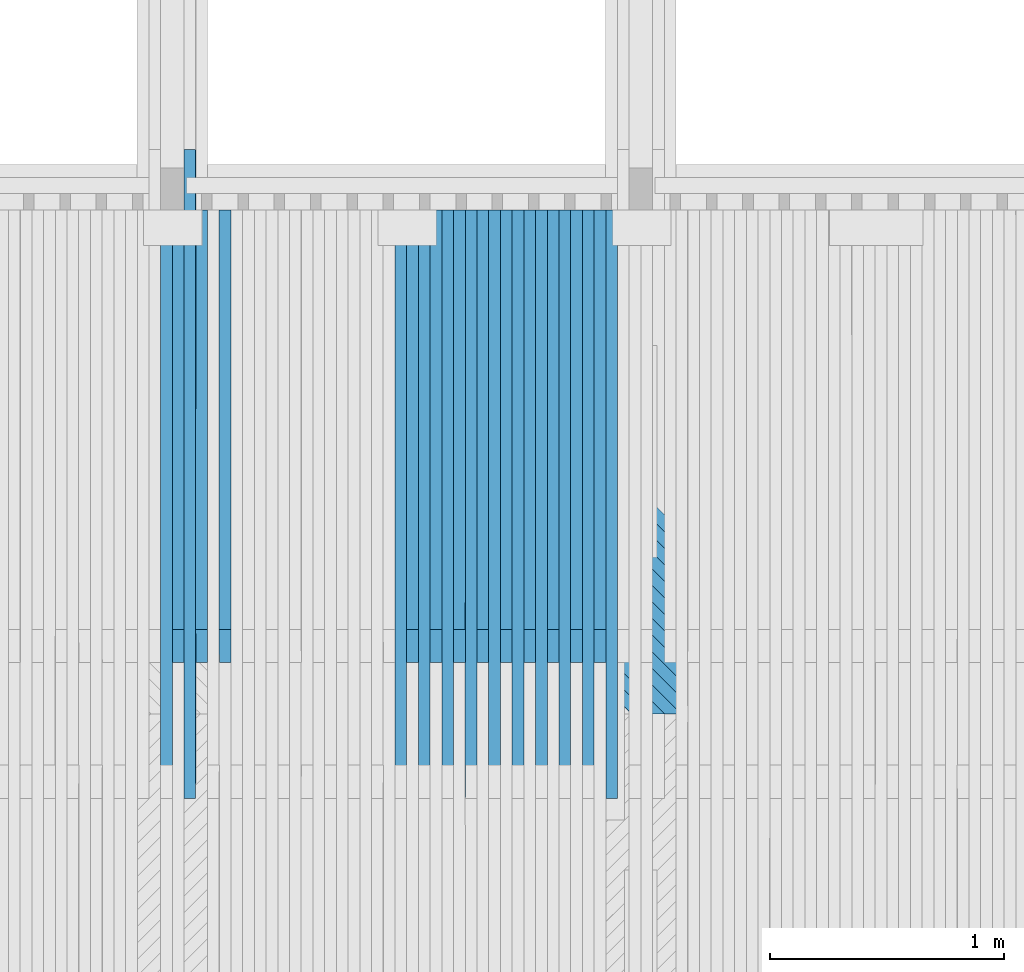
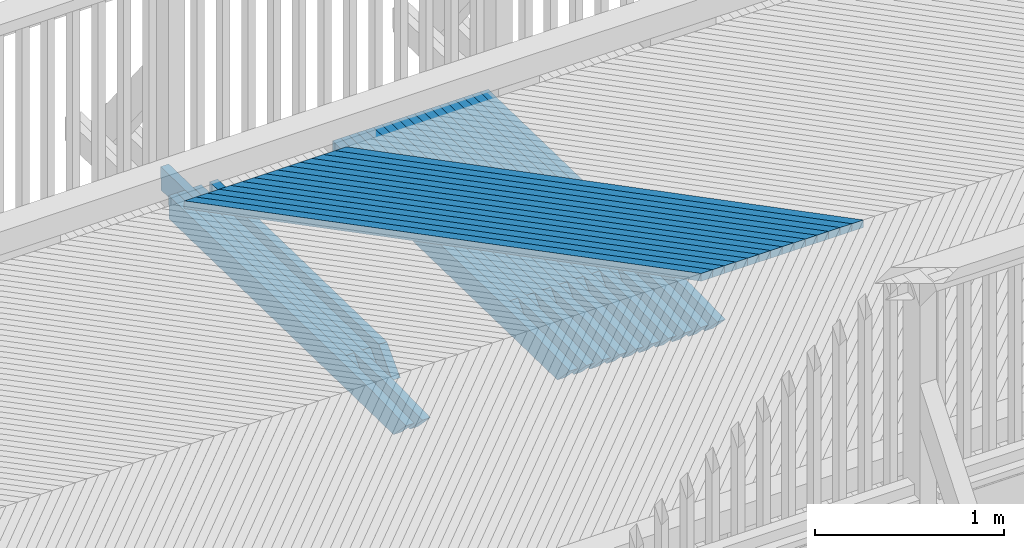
# One storey, part 27 of 53: 38 beams.
"""IFC2X3 building model written with IfcOpenShell, lengths in millimetres."""

import ifcopenshell
import ifcopenshell.guid

model = None  # the IFC model being written
_history = None  # IfcOwnerHistory: only IFC2X3 demands one
_inside = {}  # id of a spatial element -> (the spatial element, [elements in it])
_under = {}  # id of a project, library or spatial element -> (it, [spatial elements below it])
_declared = {}  # id of a project -> (the project, [libraries it declares])
_typed = {}  # id of a type object -> (the type object, [elements of that type])
_made_of = {}  # id of a material, layer set ... -> (it, [elements and type objects made of it])


def new_model(schema):
    """Start an empty IFC model of exactly this schema.

    Asked for "IFC4X3", IfcOpenShell would pick the latest addendum, in which some entities
    have other attributes; the version numbers below select the first issue.
    IFC2X3 requires an IfcOwnerHistory on every rooted entity: one is made here for all.
    """
    global model, _history
    if schema == "IFC4X3":
        model = ifcopenshell.file(schema_version=(4, 3, 0, 0))
    else:
        model = ifcopenshell.file(schema=schema)
    _inside.clear()
    _under.clear()
    _declared.clear()
    _typed.clear()
    _made_of.clear()
    _history = None
    if model.schema == "IFC2X3":
        org = make("IfcOrganization", Name="unknown")
        user = make(
            "IfcPersonAndOrganization",
            ThePerson=make("IfcPerson", FamilyName="unknown"),
            TheOrganization=org,
        )
        app = make(
            "IfcApplication",
            ApplicationDeveloper=org,
            Version="unknown",
            ApplicationFullName="unknown",
            ApplicationIdentifier="unknown",
        )
        _history = make(
            "IfcOwnerHistory",
            OwningUser=user,
            OwningApplication=app,
            ChangeAction="ADDED",
            CreationDate=0,
        )
    return model


def make(cls, **values):
    """One entity of the class cls with the attributes given. An attribute that is None is left unset."""
    return model.create_entity(
        cls, **{name: value for name, value in values.items() if value is not None}
    )


def rooted(cls, **values):
    """An entity with a GlobalId (a new one), such as an element, a storey or a relation."""
    return make(cls, GlobalId=ifcopenshell.guid.new(), OwnerHistory=_history, **values)


def si_unit(unit_type, name, prefix=None):
    """IfcSIUnit, for example si_unit("LENGTHUNIT", "METRE", prefix="MILLI")."""
    return make("IfcSIUnit", UnitType=unit_type, Prefix=prefix, Name=name)


def assignment(units):
    """IfcUnitAssignment: the units of a project."""
    return None if units is None else make("IfcUnitAssignment", Units=units)


def point(xyz):
    """IfcCartesianPoint."""
    return None if xyz is None else make("IfcCartesianPoint", Coordinates=xyz)


def direction(xyz):
    """IfcDirection."""
    return None if xyz is None else make("IfcDirection", DirectionRatios=xyz)


def frame(location, z_axis=None, x_axis=None):
    """IfcAxis2Placement3D, a coordinate frame: its origin and axes. An axis left out is left unset."""
    return make(
        "IfcAxis2Placement3D",
        Location=point(location),
        Axis=direction(z_axis),
        RefDirection=direction(x_axis),
    )


def origin_with_axes():
    """The frame at (0, 0, 0) with the z axis (0, 0, 1) and the x axis (1, 0, 0) written out."""
    return frame((0.0, 0.0, 0.0), z_axis=(0.0, 0.0, 1.0), x_axis=(1.0, 0.0, 0.0))


def place(relative_to, where):
    """IfcLocalPlacement: puts the frame where relative to a parent placement (None: the world)."""
    return make(
        "IfcLocalPlacement", PlacementRelTo=relative_to, RelativePlacement=where
    )


def context(
    kind, dimensions, precision=None, world=None, true_north=None, identifier=None
):
    """IfcGeometricRepresentationContext, for example the 3D "Model" context."""
    return make(
        "IfcGeometricRepresentationContext",
        ContextIdentifier=identifier,
        ContextType=kind,
        CoordinateSpaceDimension=dimensions,
        Precision=precision,
        WorldCoordinateSystem=world,
        TrueNorth=true_north,
    )


def subcontext(parent, identifier, kind, view, scale=None):
    """IfcGeometricRepresentationSubContext, for example "Body" below "Model"."""
    return make(
        "IfcGeometricRepresentationSubContext",
        ContextIdentifier=identifier,
        ContextType=kind,
        ParentContext=parent,
        TargetScale=scale,
        TargetView=view,
    )


def project(units=None, contexts=None):
    """IfcProject with its units and contexts."""
    return rooted(
        "IfcProject",
        Name="project",
        RepresentationContexts=contexts,
        UnitsInContext=assignment(units),
    )


def spatial(cls, under=None, at=None, **own):
    """A site, building, storey or space (cls), placed at a placement, below another one or the project."""
    s = rooted(cls, ObjectPlacement=at, **own)
    if under is not None:
        _under.setdefault(under.id(), (under, []))[1].append(s)
    return s


def faces_of(points, faces, orient=None, outer=None):
    """IfcFace entities. A face is a list of loops; a loop is a list of indices into points, from 0.

    orient and outer hold one flag for each loop. By default every Orientation is true, the
    first loop of a face is its IfcFaceOuterBound and the others are IfcFaceBound.
    """
    made = []
    for i, loops in enumerate(faces):
        bounds = []
        for j, loop in enumerate(loops):
            is_outer = j == 0 if outer is None else outer[i][j]
            bounds.append(
                make(
                    "IfcFaceOuterBound" if is_outer else "IfcFaceBound",
                    Bound=make("IfcPolyLoop", Polygon=[points[k] for k in loop]),
                    Orientation=True if orient is None else orient[i][j],
                )
            )
        made.append(make("IfcFace", Bounds=bounds))
    return made


def faceted_brep(points, faces, orient=None, outer=None, voids=None):
    """IfcFacetedBrep: a solid bounded by flat faces; with voids (closed shells), ...WithVoids."""
    shared = [point(p) for p in points]
    hull = make("IfcClosedShell", CfsFaces=faces_of(shared, faces, orient, outer))
    if voids is None:
        return make("IfcFacetedBrep", Outer=hull)
    return make(
        "IfcFacetedBrepWithVoids",
        Outer=hull,
        Voids=[
            make(cls, CfsFaces=faces_of(shared, fs, o, b)) for cls, fs, o, b in voids
        ],
    )


def shape(context_of_items, identifier, shape_type, items):
    """IfcShapeRepresentation: the items that make up one representation, for example the "Body"."""
    return make(
        "IfcShapeRepresentation",
        ContextOfItems=context_of_items,
        RepresentationIdentifier=identifier,
        RepresentationType=shape_type,
        Items=items,
    )


def material(Name=None, Category=None):
    """IfcMaterial."""
    return make("IfcMaterial", Name=Name, Category=Category)


def made_of(thing, what):
    """Note that an element or type object is made of a material, layer set ...; save() writes the relation."""
    if what is not None:
        _made_of.setdefault(what.id(), (what, []))[1].append(thing)
    return thing


def type_object(cls, material=None, **own):
    """A type object (cls), such as IfcWallType, which elements share."""
    return made_of(rooted(cls, **own), material)


def element(
    cls,
    number,
    at=None,
    inside=None,
    cuts=None,
    type_object=None,
    material=None,
    context=None,
    identifier="Body",
    shape_type=None,
    held_by="IfcProductDefinitionShape",
    body=None,
    shapes=None,
    **own,
):
    """One element of the class cls, such as IfcWall. Its Tag is "e" and its number.

    at: its placement. inside: the storey or other place that contains it. cuts: it is an
    opening in that element (IfcRelVoidsElement). A single representation is given by context,
    identifier, shape_type and body (its items); several are given by shapes. held_by: the class
    of the entity that holds the representations. save() writes the other relations.
    """
    e = rooted(cls, Tag="e%d" % number, ObjectPlacement=at, **own)
    if body is not None:
        shapes = [shape(context, identifier, shape_type, body)]
    if shapes is not None:
        e.Representation = make(held_by, Representations=shapes)
    if inside is not None:
        _inside.setdefault(inside.id(), (inside, []))[1].append(e)
    if cuts is not None:
        rooted(
            "IfcRelVoidsElement", RelatingBuildingElement=cuts, RelatedOpeningElement=e
        )
    if type_object is not None:
        _typed.setdefault(type_object.id(), (type_object, []))[1].append(e)
    return made_of(e, material)


def aggregate(whole, parts):
    """IfcRelAggregates: a whole, such as a stair, and the parts it consists of."""
    return rooted("IfcRelAggregates", RelatingObject=whole, RelatedObjects=parts)


def save(model, path):
    """Write the relations noted so far, then the file.

    IfcRelAggregates (storeys below a building ...), IfcRelContainedInSpatialStructure (elements
    in a storey), IfcRelDefinesByType, IfcRelAssociatesMaterial and IfcRelDeclares: one each for
    every whole, place, type object, material and project.
    """
    for whole, parts in _under.values():
        aggregate(whole, parts)
    for where, things in _inside.values():
        rooted(
            "IfcRelContainedInSpatialStructure",
            RelatedElements=things,
            RelatingStructure=where,
        )
    for kind, things in _typed.values():
        rooted("IfcRelDefinesByType", RelatedObjects=things, RelatingType=kind)
    for what, things in _made_of.values():
        rooted("IfcRelAssociatesMaterial", RelatedObjects=things, RelatingMaterial=what)
    for by, libraries in _declared.values():
        rooted("IfcRelDeclares", RelatingContext=by, RelatedDefinitions=libraries)
    model.write(path)


model = new_model("IFC2X3")

# Units and contexts
model_context = context("Model", 3, precision=1e-05, world=origin_with_axes())
body_context = subcontext(model_context, "Body", "Model", "MODEL_VIEW")
ifc_project = project(units=[si_unit("LENGTHUNIT", "METRE", prefix="MILLI"), si_unit("AREAUNIT", "SQUARE_METRE"), si_unit("VOLUMEUNIT", "CUBIC_METRE"), si_unit("MASSUNIT", "GRAM", prefix="KILO"), si_unit("TIMEUNIT", "SECOND"), si_unit("PLANEANGLEUNIT", "RADIAN"), si_unit("SOLIDANGLEUNIT", "STERADIAN"), si_unit("THERMODYNAMICTEMPERATUREUNIT", "DEGREE_CELSIUS"), si_unit("LUMINOUSINTENSITYUNIT", "LUMEN")], contexts=[model_context])

# Site, building, storey
site_placement = place(None, origin_with_axes())
site = spatial("IfcSite", under=ifc_project, at=site_placement, Name="Undefined", CompositionType="ELEMENT")
building_placement = place(site_placement, origin_with_axes())
building = spatial("IfcBuilding", under=site, at=building_placement, Name="Undefined", CompositionType="ELEMENT")
storey_placement = place(building_placement, origin_with_axes())
storey = spatial("IfcBuildingStorey", under=building, at=storey_placement, Name="Undefined", CompositionType="ELEMENT", Elevation=0.0)

# Beams
ifc_material = material(Name="TIMBER/Timber_Undefined")
beam_type_1 = type_object("IfcBeamType", Name="50*50", PredefinedType="NOTDEFINED")
for number, where, z_axis, x_axis, name in (
    (1, (8913.77277485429, 42365.4998996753, 3235.42868074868), (0.707094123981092, 0.706981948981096, -0.0139435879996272), (-0.707119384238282, 0.706948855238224, -0.0143350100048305), "BEAM"),
    (2, (8843.04861667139, 42365.4998996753, 3235.53185944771), (0.707095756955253, 0.70698194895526, -0.013860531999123), (-0.7071176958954, 0.706948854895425, -0.0144180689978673), "BEAM"),
    (3, (8772.32444685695, 42365.4998996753, 3235.62673083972), (0.707097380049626, 0.706981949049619, -0.0137774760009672), (-0.707115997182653, 0.70694885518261, -0.0145011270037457), "BEAM"),
    (4, (8701.60026638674, 42365.4998996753, 3235.71329492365), (0.707098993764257, 0.706981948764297, -0.0136944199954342), (-0.707114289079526, 0.706948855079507, -0.0145841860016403), "BEAM"),
    (5, (8630.87607623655, 42365.4998996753, 3235.79155169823), (0.707100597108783, 0.706981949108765, -0.013611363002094), (-0.707112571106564, 0.706948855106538, -0.0146672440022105), "BEAM"),
    (6, (8560.15187738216, 42365.4998996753, 3235.86150116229), (0.707102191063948, 0.706981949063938, -0.0135283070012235), (-0.707110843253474, 0.706948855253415, -0.0147503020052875), "BEAM"),
    (7, (8489.42767079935, 42365.4998996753, 3235.9231433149), (0.707103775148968, 0.706981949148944, -0.0134452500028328), (-0.707109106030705, 0.706948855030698, -0.0148333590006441), "BEAM"),
    (8, (8418.7034574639, 42365.4998996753, 3235.97647815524), (0.707105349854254, 0.706981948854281, -0.0133621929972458), (-0.70710735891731, 0.706948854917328, -0.0149164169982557), "BEAM"),
    (9, (8347.9792383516, 42365.4998996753, 3236.02150568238), (0.707106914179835, 0.706981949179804, -0.0132791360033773), (-0.707105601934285, 0.706948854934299, -0.014999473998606), "BEAM"),
    (10, (8277.25501443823, 42365.4998996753, 3236.05822589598), (0.707108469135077, 0.706981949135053, -0.0131960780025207), (-0.707103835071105, 0.706948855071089, -0.0150825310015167), "BEAM"),
    (11, (8206.53078669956, 42365.4998996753, 3236.08663879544), (0.707110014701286, 0.706981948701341, -0.0131130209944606), (-0.707102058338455, 0.70694885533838, -0.015165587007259), "BEAM"),
    (12, (8135.80655611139, 42365.4998996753, 3236.10674438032), (0.707111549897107, 0.706981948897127, -0.0130299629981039), (-0.707100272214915, 0.706948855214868, -0.0152486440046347), "BEAM"),
    (13, (8065.0823236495, 42365.4998996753, 3236.11854265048), (0.70711307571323, 0.706981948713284, -0.0129469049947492), (-0.70709847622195, 0.706948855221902, -0.0153317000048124), "BEAM"),
    (14, (7994.35809028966, 42365.4998996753, 3236.12203360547), (0.707114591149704, 0.706981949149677, -0.0128638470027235), (-0.707096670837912, 0.706948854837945, -0.0154147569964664), "BEAM"),
):
    element("IfcBeam", number, at=place(storey_placement, frame(where, z_axis=z_axis, x_axis=x_axis)), inside=storey, type_object=beam_type_1, material=ifc_material, Name=name, ObjectType="50*50", context=body_context, shape_type="Brep", body=[
        faceted_brep([(23.5869248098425, 25.0000000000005, -24.9999999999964), (-26.415415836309, 25.0000000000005, 25.0000000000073), (2802.92643296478, 25.0, 25.0), (2852.92877373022, 25.0, -25.0000000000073), (-25.001170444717, -24.9999999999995, 25.0000000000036), (2804.3406783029, -25.0, 24.9999999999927), (25.0011701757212, -24.9999999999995, -24.9999999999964), (2854.34301907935, -25.0, -25.0)], [[[0, 1, 2, 3]], [[1, 4, 5, 2]], [[4, 6, 7, 5]], [[6, 0, 3, 7]], [[5, 7, 3, 2]], [[6, 4, 1, 0]]]),
    ])
beam_type_2 = type_object("IfcBeamType", Name="150*50", PredefinedType="NOTDEFINED")
for number, where, z_axis, x_axis, name in (
    (15, (7875.75102646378, 44513.4953923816, 3093.13715307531), (-0.000288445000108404, 0.0199960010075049, 0.99980001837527), (-5.75600000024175e-06, -0.999800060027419, 0.0199959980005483), "BEAM"),
    (16, (7775.73099692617, 44513.4953923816, 3093.10819901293), (-0.000453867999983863, 0.0199960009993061, 0.999799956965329), (-9.07800000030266e-06, -0.999800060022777, 0.0199959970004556), "BEAM"),
):
    element("IfcBeam", number, at=place(storey_placement, frame(where, z_axis=z_axis, x_axis=x_axis)), inside=storey, type_object=beam_type_2, material=ifc_material, Name=name, ObjectType="150*50", context=body_context, shape_type="Brep", body=[
        faceted_brep([(1.28420651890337e-08, -24.9999999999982, -74.9999999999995), (1.28420651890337e-08, 25.0000000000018, -75.0), (2375.00494422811, 25.0000000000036, -75.0), (2375.0049444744, -24.9999999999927, -74.9999999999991), (-1.28347892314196e-08, -24.9999999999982, 75.0), (-1.28347892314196e-08, 25.0, 75.0), (2150.42515052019, 25.0000000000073, 75.0), (2510.59248715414, 25.0000000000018, 60.5875433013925), (2510.5924871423, -24.9999999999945, 60.5875430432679), (2150.42514405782, -24.9999999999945, 75.0)], [[[0, 1, 2, 3]], [[0, 4, 5, 1]], [[2, 1, 5, 6, 7]], [[3, 2, 7, 8]], [[4, 0, 3, 8, 9]], [[5, 4, 9, 6]], [[8, 7, 6, 9]]]),
    ])
beam_1_placement = place(storey_placement, frame((7825.75102780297, 44513.4953923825, 3093.12259668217), z_axis=(-0.000288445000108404, 0.0199960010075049, 0.99980001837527), x_axis=(-5.75600000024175e-06, -0.999800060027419, 0.0199959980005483)))
element("IfcBeam", 17, at=beam_1_placement, inside=storey, type_object=beam_type_2, material=ifc_material, Name="BEAM", ObjectType="150*50", context=body_context, shape_type="Brep", body=[
    faceted_brep([(1.28420651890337e-08, -24.9999999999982, -74.9999999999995), (-1.28347892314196e-08, -24.9999999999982, 75.0), (-1.28347892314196e-08, 25.0, 75.0), (1.28420651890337e-08, 25.0000000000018, -75.0), (1789.96936408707, 24.9999999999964, 75.0000000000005), (1928.42646328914, 24.9999999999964, -74.9999999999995), (1928.42646353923, -25.0000000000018, -75.0), (1789.96936433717, -25.0000000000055, 74.9999999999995)], [[[0, 1, 2, 3]], [[3, 2, 4, 5]], [[0, 3, 5, 6]], [[1, 0, 6, 7]], [[2, 1, 7, 4]], [[5, 4, 7, 6]]]),
])
beam_2_placement = place(storey_placement, frame((7675.71097358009, 44513.4953923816, 3093.06262608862), z_axis=(-0.000619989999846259, 0.0199960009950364, 0.999799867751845), x_axis=(-1.24010000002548e-05, -0.99980006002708, 0.0199959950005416)))
element("IfcBeam", 18, at=beam_2_placement, inside=storey, type_object=beam_type_2, material=ifc_material, Name="BEAM", ObjectType="150*50", context=body_context, shape_type="Brep", body=[
    faceted_brep([(1.28420651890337e-08, -24.9999999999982, -74.9999999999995), (1.28420651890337e-08, 25.0000000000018, -75.0), (2375.00494422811, 25.0000000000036, -75.0), (2375.0049444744, -24.9999999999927, -74.9999999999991), (-1.28347892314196e-08, -24.9999999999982, 75.0), (-1.28347892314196e-08, 25.0, 75.0), (2150.42515052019, 25.0000000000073, 75.0), (2510.59248715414, 25.0000000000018, 60.5875433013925), (2510.5924871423, -24.9999999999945, 60.5875430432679), (2150.42514405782, -24.9999999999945, 75.0)], [[[0, 1, 2, 3]], [[0, 4, 5, 1]], [[2, 1, 5, 6, 7]], [[3, 2, 7, 8]], [[4, 0, 3, 8, 9]], [[5, 4, 9, 6]], [[8, 7, 6, 9]]]),
])
beam_3_placement = place(storey_placement, frame((7725.73100137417, 44513.4953923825, 3093.08533485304), z_axis=(-0.000453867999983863, 0.0199960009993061, 0.999799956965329), x_axis=(-9.07800000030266e-06, -0.999800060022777, 0.0199959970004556)))
element("IfcBeam", 19, at=beam_3_placement, inside=storey, type_object=beam_type_2, material=ifc_material, Name="BEAM", ObjectType="150*50", context=body_context, shape_type="Brep", body=[
    faceted_brep([(1.28420651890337e-08, -24.9999999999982, -74.9999999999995), (-1.28347892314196e-08, -24.9999999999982, 75.0), (-1.28347892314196e-08, 25.0, 75.0), (1.28420651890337e-08, 25.0000000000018, -75.0), (1789.96936408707, 24.9999999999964, 75.0000000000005), (1928.42646328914, 24.9999999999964, -74.9999999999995), (1928.42646353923, -25.0000000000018, -75.0), (1789.96936433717, -25.0000000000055, 74.9999999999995)], [[[0, 1, 2, 3]], [[3, 2, 4, 5]], [[0, 3, 5, 6]], [[1, 0, 6, 7]], [[2, 1, 7, 4]], [[5, 4, 7, 6]]]),
])
beam_4_placement = place(storey_placement, frame((7575.69095918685, 44513.4953923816, 3093.00043430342), z_axis=(-0.00078611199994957, 0.0199960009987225, 0.999799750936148), x_axis=(-1.57230000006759e-05, -0.999800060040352, 0.019995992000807)))
element("IfcBeam", 20, at=beam_4_placement, inside=storey, type_object=beam_type_2, material=ifc_material, Name="BEAM", ObjectType="150*50", context=body_context, shape_type="Brep", body=[
    faceted_brep([(1.28420651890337e-08, -24.9999999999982, -74.9999999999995), (1.28420651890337e-08, 25.0000000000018, -75.0), (2375.00494422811, 25.0000000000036, -75.0), (2375.0049444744, -24.9999999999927, -74.9999999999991), (-1.28347892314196e-08, -24.9999999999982, 75.0), (-1.28347892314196e-08, 25.0, 75.0), (2150.42515052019, 25.0000000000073, 75.0), (2510.59248715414, 25.0000000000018, 60.5875433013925), (2510.5924871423, -24.9999999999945, 60.5875430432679), (2150.42514405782, -24.9999999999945, 75.0)], [[[0, 1, 2, 3]], [[0, 4, 5, 1]], [[2, 1, 5, 6, 7]], [[3, 2, 7, 8]], [[4, 0, 3, 8, 9]], [[5, 4, 9, 6]], [[8, 7, 6, 9]]]),
])
beam_5_placement = place(storey_placement, frame((7625.71098251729, 44513.4953923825, 3093.03145416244), z_axis=(-0.000619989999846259, 0.0199960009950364, 0.999799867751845), x_axis=(-1.24010000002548e-05, -0.99980006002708, 0.0199959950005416)))
element("IfcBeam", 21, at=beam_5_placement, inside=storey, type_object=beam_type_2, material=ifc_material, Name="BEAM", ObjectType="150*50", context=body_context, shape_type="Brep", body=[
    faceted_brep([(1.28420651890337e-08, -24.9999999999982, -74.9999999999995), (-1.28347892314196e-08, -24.9999999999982, 75.0), (-1.28347892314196e-08, 25.0, 75.0), (1.28420651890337e-08, 25.0000000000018, -75.0), (1789.96936408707, 24.9999999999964, 75.0000000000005), (1928.42646328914, 24.9999999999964, -74.9999999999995), (1928.42646353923, -25.0000000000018, -75.0), (1789.96936433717, -25.0000000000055, 74.9999999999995)], [[[0, 1, 2, 3]], [[3, 2, 4, 5]], [[0, 3, 5, 6]], [[1, 0, 6, 7]], [[2, 1, 7, 4]], [[5, 4, 7, 6]]]),
])
beam_6_placement = place(storey_placement, frame((7475.67095650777, 44513.4953923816, 3092.92162365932), z_axis=(-0.000952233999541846, 0.0199960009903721, 0.999799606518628), x_axis=(-1.90460000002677e-05, -0.999800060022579, 0.0199959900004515)))
element("IfcBeam", 22, at=beam_6_placement, inside=storey, type_object=beam_type_2, material=ifc_material, Name="BEAM", ObjectType="150*50", context=body_context, shape_type="Brep", body=[
    faceted_brep([(1.28420651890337e-08, -24.9999999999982, -74.9999999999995), (1.28420651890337e-08, 25.0000000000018, -75.0), (2375.00494422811, 25.0000000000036, -75.0), (2375.0049444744, -24.9999999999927, -74.9999999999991), (-1.28347892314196e-08, -24.9999999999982, 75.0), (-1.28347892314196e-08, 25.0, 75.0), (2150.42515052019, 25.0000000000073, 75.0), (2510.59248715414, 25.0000000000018, 60.5875433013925), (2510.5924871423, -24.9999999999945, 60.5875430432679), (2150.42514405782, -24.9999999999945, 75.0)], [[[0, 1, 2, 3]], [[0, 4, 5, 1]], [[2, 1, 5, 6, 7]], [[3, 2, 7, 8]], [[4, 0, 3, 8, 9]], [[5, 4, 9, 6]], [[8, 7, 6, 9]]]),
])
beam_7_placement = place(storey_placement, frame((7525.69097399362, 44513.4953923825, 3092.96095461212), z_axis=(-0.00078611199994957, 0.0199960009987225, 0.999799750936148), x_axis=(-1.57230000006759e-05, -0.999800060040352, 0.019995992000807)))
element("IfcBeam", 23, at=beam_7_placement, inside=storey, type_object=beam_type_2, material=ifc_material, Name="BEAM", ObjectType="150*50", context=body_context, shape_type="Brep", body=[
    faceted_brep([(1.28420651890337e-08, -24.9999999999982, -74.9999999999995), (-1.28347892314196e-08, -24.9999999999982, 75.0), (-1.28347892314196e-08, 25.0, 75.0), (1.28420651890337e-08, 25.0000000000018, -75.0), (1789.96936408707, 24.9999999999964, 75.0000000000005), (1928.42646328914, 24.9999999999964, -74.9999999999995), (1928.42646353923, -25.0000000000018, -75.0), (1789.96936433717, -25.0000000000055, 74.9999999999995)], [[[0, 1, 2, 3]], [[3, 2, 4, 5]], [[0, 3, 5, 6]], [[1, 0, 6, 7]], [[2, 1, 7, 4]], [[5, 4, 7, 6]]]),
])
beam_8_placement = place(storey_placement, frame((7375.65096830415, 44513.4953923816, 3092.82619415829), z_axis=(-0.00111835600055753, 0.019996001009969, 0.999799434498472), x_axis=(-2.23680000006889e-05, -0.999800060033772, 0.0199959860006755)))
element("IfcBeam", 24, at=beam_8_placement, inside=storey, type_object=beam_type_2, material=ifc_material, Name="BEAM", ObjectType="150*50", context=body_context, shape_type="Brep", body=[
    faceted_brep([(1.28420651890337e-08, -24.9999999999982, -74.9999999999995), (1.28420651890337e-08, 25.0000000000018, -75.0), (2375.00494422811, 25.0000000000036, -75.0), (2375.0049444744, -24.9999999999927, -74.9999999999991), (-1.28347892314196e-08, -24.9999999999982, 75.0), (-1.28347892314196e-08, 25.0, 75.0), (2150.42515052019, 25.0000000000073, 75.0), (2510.59248715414, 25.0000000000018, 60.5875433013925), (2510.5924871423, -24.9999999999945, 60.5875430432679), (2150.42514405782, -24.9999999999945, 75.0)], [[[0, 1, 2, 3]], [[0, 4, 5, 1]], [[2, 1, 5, 6, 7]], [[3, 2, 7, 8]], [[4, 0, 3, 8, 9]], [[5, 4, 9, 6]], [[8, 7, 6, 9]]]),
])
beam_9_placement = place(storey_placement, frame((7425.67097856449, 44513.4953923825, 3092.87383620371), z_axis=(-0.000952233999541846, 0.0199960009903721, 0.999799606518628), x_axis=(-1.90460000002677e-05, -0.999800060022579, 0.0199959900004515)))
element("IfcBeam", 25, at=beam_9_placement, inside=storey, type_object=beam_type_2, material=ifc_material, Name="BEAM", ObjectType="150*50", context=body_context, shape_type="Brep", body=[
    faceted_brep([(1.28420651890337e-08, -24.9999999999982, -74.9999999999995), (-1.28347892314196e-08, -24.9999999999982, 75.0), (-1.28347892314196e-08, 25.0, 75.0), (1.28420651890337e-08, 25.0000000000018, -75.0), (1789.96936408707, 24.9999999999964, 75.0000000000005), (1928.42646328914, 24.9999999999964, -74.9999999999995), (1928.42646353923, -25.0000000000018, -75.0), (1789.96936433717, -25.0000000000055, 74.9999999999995)], [[[0, 1, 2, 3]], [[3, 2, 4, 5]], [[0, 3, 5, 6]], [[1, 0, 6, 7]], [[2, 1, 7, 4]], [[5, 4, 7, 6]]]),
])
beam_10_placement = place(storey_placement, frame((7275.63099733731, 44513.4953923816, 3092.71414580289), z_axis=(-0.00128447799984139, 0.0199960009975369, 0.99979923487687), x_axis=(-2.56900000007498e-05, -0.999800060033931, 0.0199959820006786)))
element("IfcBeam", 26, at=beam_10_placement, inside=storey, type_object=beam_type_2, material=ifc_material, Name="BEAM", ObjectType="150*50", context=body_context, shape_type="Brep", body=[
    faceted_brep([(1.28420651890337e-08, -24.9999999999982, -74.9999999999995), (1.28420651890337e-08, 25.0000000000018, -75.0), (2375.00494422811, 25.0000000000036, -75.0), (2375.0049444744, -24.9999999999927, -74.9999999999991), (-1.28347892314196e-08, -24.9999999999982, 75.0), (-1.28347892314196e-08, 25.0, 75.0), (2150.42515052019, 25.0000000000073, 75.0), (2510.59248715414, 25.0000000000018, 60.5875433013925), (2510.5924871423, -24.9999999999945, 60.5875430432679), (2150.42514405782, -24.9999999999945, 75.0)], [[[0, 1, 2, 3]], [[0, 4, 5, 1]], [[2, 1, 5, 6, 7]], [[3, 2, 7, 8]], [[4, 0, 3, 8, 9]], [[5, 4, 9, 6]], [[8, 7, 6, 9]]]),
])
beam_11_placement = place(storey_placement, frame((7325.6509989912, 44513.4953923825, 3092.77009893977), z_axis=(-0.00111835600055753, 0.019996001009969, 0.999799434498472), x_axis=(-2.23680000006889e-05, -0.999800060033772, 0.0199959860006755)))
element("IfcBeam", 27, at=beam_11_placement, inside=storey, type_object=beam_type_2, material=ifc_material, Name="BEAM", ObjectType="150*50", context=body_context, shape_type="Brep", body=[
    faceted_brep([(1.28420651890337e-08, -24.9999999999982, -74.9999999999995), (-1.28347892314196e-08, -24.9999999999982, 75.0), (-1.28347892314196e-08, 25.0, 75.0), (1.28420651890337e-08, 25.0000000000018, -75.0), (1789.96936408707, 24.9999999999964, 75.0000000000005), (1928.42646328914, 24.9999999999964, -74.9999999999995), (1928.42646353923, -25.0000000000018, -75.0), (1789.96936433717, -25.0000000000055, 74.9999999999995)], [[[0, 1, 2, 3]], [[3, 2, 4, 5]], [[0, 3, 5, 6]], [[1, 0, 6, 7]], [[2, 1, 7, 4]], [[5, 4, 7, 6]]]),
])
beam_12_placement = place(storey_placement, frame((7175.61104636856, 44513.4953923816, 3092.58547859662), z_axis=(-0.00145059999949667, 0.0199960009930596, 0.999799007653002), x_axis=(-2.90130000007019e-05, -0.999800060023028, 0.0199959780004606)))
element("IfcBeam", 28, at=beam_12_placement, inside=storey, type_object=beam_type_2, material=ifc_material, Name="BEAM", ObjectType="150*50", context=body_context, shape_type="Brep", body=[
    faceted_brep([(1.28420651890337e-08, -24.9999999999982, -74.9999999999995), (1.28420651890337e-08, 25.0000000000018, -75.0), (2375.00494422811, 25.0000000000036, -75.0), (2375.0049444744, -24.9999999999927, -74.9999999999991), (-1.28347892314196e-08, -24.9999999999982, 75.0), (-1.28347892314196e-08, 25.0, 75.0), (2150.42515052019, 25.0000000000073, 75.0), (2510.59248715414, 25.0000000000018, 60.5875433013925), (2510.5924871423, -24.9999999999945, 60.5875430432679), (2150.42514405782, -24.9999999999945, 75.0)], [[[0, 1, 2, 3]], [[0, 4, 5, 1]], [[2, 1, 5, 6, 7]], [[3, 2, 7, 8]], [[4, 0, 3, 8, 9]], [[5, 4, 9, 6]], [[8, 7, 6, 9]]]),
])
beam_13_placement = place(storey_placement, frame((7225.63103803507, 44513.4953923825, 3092.64974282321), z_axis=(-0.00128447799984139, 0.0199960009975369, 0.99979923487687), x_axis=(-2.56900000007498e-05, -0.999800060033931, 0.0199959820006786)))
element("IfcBeam", 29, at=beam_13_placement, inside=storey, type_object=beam_type_2, material=ifc_material, Name="BEAM", ObjectType="150*50", context=body_context, shape_type="Brep", body=[
    faceted_brep([(1.28420651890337e-08, -24.9999999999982, -74.9999999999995), (-1.28347892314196e-08, -24.9999999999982, 75.0), (-1.28347892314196e-08, 25.0, 75.0), (1.28420651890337e-08, 25.0000000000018, -75.0), (1789.96936408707, 24.9999999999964, 75.0000000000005), (1928.42646328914, 24.9999999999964, -74.9999999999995), (1928.42646353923, -25.0000000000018, -75.0), (1789.96936433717, -25.0000000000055, 74.9999999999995)], [[[0, 1, 2, 3]], [[3, 2, 4, 5]], [[0, 3, 5, 6]], [[1, 0, 6, 7]], [[2, 1, 7, 4]], [[5, 4, 7, 6]]]),
])
beam_14_placement = place(storey_placement, frame((7075.5911181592, 44513.4953923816, 3092.44019254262), z_axis=(-0.00161672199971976, 0.0199960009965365, 0.999798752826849), x_axis=(-3.23350000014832e-05, -0.999800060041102, 0.019995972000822)))
element("IfcBeam", 30, at=beam_14_placement, inside=storey, type_object=beam_type_2, material=ifc_material, Name="BEAM", ObjectType="150*50", context=body_context, shape_type="Brep", body=[
    faceted_brep([(1.28420651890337e-08, -24.9999999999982, -74.9999999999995), (1.28420651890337e-08, 25.0000000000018, -75.0), (2375.00494422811, 25.0000000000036, -75.0), (2375.0049444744, -24.9999999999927, -74.9999999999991), (-1.28347892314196e-08, -24.9999999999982, 75.0), (-1.28347892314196e-08, 25.0, 75.0), (2150.42515052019, 25.0000000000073, 75.0), (2510.59248715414, 25.0000000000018, 60.5875433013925), (2510.5924871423, -24.9999999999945, 60.5875430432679), (2150.42514405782, -24.9999999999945, 75.0)], [[[0, 1, 2, 3]], [[0, 4, 5, 1]], [[2, 1, 5, 6, 7]], [[3, 2, 7, 8]], [[4, 0, 3, 8, 9]], [[5, 4, 9, 6]], [[8, 7, 6, 9]]]),
])
beam_15_placement = place(storey_placement, frame((7125.61109845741, 44513.4953923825, 3092.51276785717), z_axis=(-0.00145059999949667, 0.0199960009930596, 0.999799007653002), x_axis=(-2.90130000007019e-05, -0.999800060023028, 0.0199959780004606)))
element("IfcBeam", 31, at=beam_15_placement, inside=storey, type_object=beam_type_2, material=ifc_material, Name="BEAM", ObjectType="150*50", context=body_context, shape_type="Brep", body=[
    faceted_brep([(1.28420651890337e-08, -24.9999999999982, -74.9999999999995), (-1.28347892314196e-08, -24.9999999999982, 75.0), (-1.28347892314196e-08, 25.0, 75.0), (1.28420651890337e-08, 25.0000000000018, -75.0), (1789.96936408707, 24.9999999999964, 75.0000000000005), (1928.42646328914, 24.9999999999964, -74.9999999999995), (1928.42646353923, -25.0000000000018, -75.0), (1789.96936433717, -25.0000000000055, 74.9999999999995)], [[[0, 1, 2, 3]], [[3, 2, 4, 5]], [[0, 3, 5, 6]], [[1, 0, 6, 7]], [[2, 1, 7, 4]], [[5, 4, 7, 6]]]),
])
beam_16_placement = place(storey_placement, frame((6975.57121547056, 44513.4953923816, 3092.27828764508), z_axis=(-0.0017828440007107, 0.0199960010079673, 0.999798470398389), x_axis=(-3.5658000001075e-05, -0.999800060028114, 0.0199959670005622)))
element("IfcBeam", 32, at=beam_16_placement, inside=storey, type_object=beam_type_2, material=ifc_material, Name="BEAM", ObjectType="150*50", context=body_context, shape_type="Brep", body=[
    faceted_brep([(1.28420651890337e-08, -24.9999999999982, -74.9999999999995), (1.28420651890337e-08, 25.0000000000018, -75.0), (2375.00494422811, 25.0000000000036, -75.0), (2375.0049444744, -24.9999999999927, -74.9999999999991), (-1.28347892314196e-08, -24.9999999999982, 75.0), (-1.28347892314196e-08, 25.0, 75.0), (2150.42515052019, 25.0000000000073, 75.0), (2510.59248715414, 25.0000000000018, 60.5875433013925), (2510.5924871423, -24.9999999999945, 60.5875430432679), (2150.42514405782, -24.9999999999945, 75.0)], [[[0, 1, 2, 3]], [[0, 4, 5, 1]], [[2, 1, 5, 6, 7]], [[3, 2, 7, 8]], [[4, 0, 3, 8, 9]], [[5, 4, 9, 6]], [[8, 7, 6, 9]]]),
])
beam_17_placement = place(storey_placement, frame((7025.59118301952, 44513.4953923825, 3092.35917404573), z_axis=(-0.00161672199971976, 0.0199960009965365, 0.999798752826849), x_axis=(-3.23350000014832e-05, -0.999800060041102, 0.019995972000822)))
element("IfcBeam", 33, at=beam_17_placement, inside=storey, type_object=beam_type_2, material=ifc_material, Name="BEAM", ObjectType="150*50", context=body_context, shape_type="Brep", body=[
    faceted_brep([(1.28420651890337e-08, -24.9999999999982, -74.9999999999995), (-1.28347892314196e-08, -24.9999999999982, 75.0), (-1.28347892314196e-08, 25.0, 75.0), (1.28420651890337e-08, 25.0000000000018, -75.0), (1789.96936408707, 24.9999999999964, 75.0000000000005), (1928.42646328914, 24.9999999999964, -74.9999999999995), (1928.42646353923, -25.0000000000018, -75.0), (1789.96936433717, -25.0000000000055, 74.9999999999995)], [[[0, 1, 2, 3]], [[3, 2, 4, 5]], [[0, 3, 5, 6]], [[1, 0, 6, 7]], [[2, 1, 7, 4]], [[5, 4, 7, 6]]]),
])
for number, where, z_axis, x_axis, name in (
    (34, (6225.43305990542, 44513.4953923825, 3090.53214571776), (-0.00294569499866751, 0.019996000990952, 0.999795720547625), (-5.89150000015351e-05, -0.999800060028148, 0.019995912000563), "BEAM"),
    (35, (6125.41348598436, 44513.4953923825, 3090.22898254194), (-0.00311234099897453, 0.0199960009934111, 0.999795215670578), (-6.22370000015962e-05, -0.999800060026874, 0.0199959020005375), "BEAM"),
):
    element("IfcBeam", number, at=place(storey_placement, frame(where, z_axis=z_axis, x_axis=x_axis)), inside=storey, type_object=beam_type_2, material=ifc_material, Name=name, ObjectType="150*50", context=body_context, shape_type="Brep", body=[
        faceted_brep([(1.28420651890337e-08, -24.9999999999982, -74.9999999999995), (-1.28347892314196e-08, -24.9999999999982, 75.0), (-1.28347892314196e-08, 25.0, 75.0), (1.28420651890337e-08, 25.0000000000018, -75.0), (1928.42646328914, 24.9999999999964, -74.9999999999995), (1928.42646353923, -25.0000000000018, -75.0), (1789.96936433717, -25.0000000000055, 74.9999999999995), (1789.96936408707, 24.9999999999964, 75.0000000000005)], [[[0, 1, 2, 3]], [[0, 3, 4, 5]], [[1, 0, 5, 6]], [[2, 1, 6, 7]], [[3, 2, 7, 4]], [[4, 7, 6, 5]]]),
    ])
beam_18_placement = place(storey_placement, frame((5975.37419971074, 44513.4953923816, 3089.74520348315), z_axis=(-0.00344458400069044, 0.0199960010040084, 0.999794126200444), x_axis=(-6.91999999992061e-05, -0.999800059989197, 0.019995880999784)))
element("IfcBeam", 36, at=beam_18_placement, inside=storey, type_object=beam_type_2, material=ifc_material, Name="BEAM", ObjectType="150*50", context=body_context, shape_type="Brep", body=[
    faceted_brep([(1.28420651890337e-08, -24.9999999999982, -74.9999999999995), (1.28420651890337e-08, 25.0000000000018, -75.0), (2375.00494422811, 25.0000000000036, -75.0), (2375.0049444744, -24.9999999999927, -74.9999999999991), (-1.28347892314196e-08, -24.9999999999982, 75.0), (-1.28347892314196e-08, 25.0, 75.0), (2150.42515052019, 25.0000000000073, 75.0), (2510.59248715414, 25.0000000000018, 60.5875433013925), (2510.5924871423, -24.9999999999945, 60.5875430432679), (2150.42514405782, -24.9999999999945, 75.0)], [[[0, 1, 2, 3]], [[0, 4, 5, 1]], [[2, 1, 5, 6, 7]], [[3, 2, 7, 8]], [[4, 0, 3, 8, 9]], [[5, 4, 9, 6]], [[8, 7, 6, 9]]]),
])
beam_19_placement = place(storey_placement, frame((6025.39396381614, 44513.4953923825, 3089.90920058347), z_axis=(-0.00327846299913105, 0.0199960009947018, 0.999794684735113), x_axis=(-6.55590000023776e-05, -0.999800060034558, 0.0199958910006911)))
element("IfcBeam", 37, at=beam_19_placement, inside=storey, type_object=beam_type_2, material=ifc_material, Name="BEAM", ObjectType="150*50", context=body_context, shape_type="Brep", body=[
    faceted_brep([(1.28420651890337e-08, -24.9999999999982, -74.9999999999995), (-1.28347892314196e-08, -24.9999999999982, 75.0), (-1.28347892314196e-08, 25.0, 75.0), (1.28420651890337e-08, 25.0000000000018, -75.0), (1928.42646328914, 24.9999999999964, -74.9999999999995), (1928.42646353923, -25.0000000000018, -75.0), (1789.96936433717, -25.0000000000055, 74.9999999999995), (1789.96936408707, 24.9999999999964, 75.0000000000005)], [[[0, 1, 2, 3]], [[0, 3, 4, 5]], [[1, 0, 5, 6]], [[2, 1, 6, 7]], [[3, 2, 7, 4]], [[4, 7, 6, 5]]]),
])
beam_20_placement = place(storey_placement, frame((6075.29542450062, 44771.443807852, 3084.91318306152), z_axis=(-0.00327846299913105, 0.0199960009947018, 0.999794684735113), x_axis=(-6.55590000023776e-05, -0.999800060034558, 0.0199958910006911)))
element("IfcBeam", 38, at=beam_20_placement, inside=storey, type_object=beam_type_2, material=ifc_material, Name="BEAM", ObjectType="150*50", context=body_context, shape_type="Brep", body=[
    faceted_brep([(1.28420651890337e-08, -24.9999999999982, -74.9999999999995), (1.28420651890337e-08, 25.0000000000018, -75.0), (2633.00494750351, 25.0, -75.0), (2633.00494763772, -25.0, -75.0), (-1.28347892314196e-08, -24.9999999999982, 75.0), (-1.28347892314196e-08, 25.0, 75.0), (2408.42506824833, 24.9999999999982, 75.0), (2768.59248710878, 24.9999999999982, 60.5875398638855), (2768.59248713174, -25.0, 60.5875397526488), (2408.42506549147, -25.0000000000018, 75.0000000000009)], [[[0, 1, 2, 3]], [[0, 4, 5, 1]], [[2, 1, 5, 6, 7]], [[3, 2, 7, 8]], [[4, 0, 3, 8, 9]], [[5, 4, 9, 6]], [[8, 7, 6, 9]]]),
])

save(model, "model.ifc")
